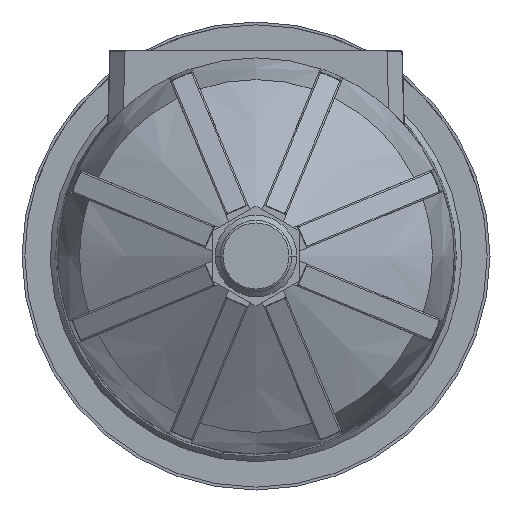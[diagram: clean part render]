
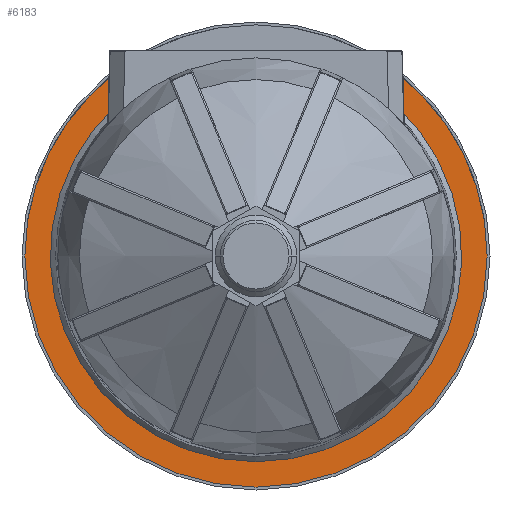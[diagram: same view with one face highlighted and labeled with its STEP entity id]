
A CAD part, front view. The second image highlights one B-rep face of the part: STEP entity #6183.
In plain terms, the highlighted planar face has unit normal (0, -1, 0).
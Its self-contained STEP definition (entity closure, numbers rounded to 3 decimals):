
#2401=CARTESIAN_POINT('',(0.,23.2,
0.));
#2402=DIRECTION('',(0.,1.,0.));
#2403=DIRECTION('',(0.,0.,-1.));
#2404=AXIS2_PLACEMENT_3D('',#2401,#2402,#2403);
#2406=CARTESIAN_POINT('',(0.,23.2,
0.));
#2407=DIRECTION('',(0.,1.,0.));
#2408=DIRECTION('',(0.547,0.,0.837));
#2409=AXIS2_PLACEMENT_3D('',#2406,#2407,#2408);
#2411=DIRECTION('',(0.052,0.,-0.999));
#2412=VECTOR('',#2411,6.02);
#2413=CARTESIAN_POINT('',(21.83,23.2,39.921));
#2414=LINE('',#2413,#2412);
#2415=CARTESIAN_POINT('',(0.,23.2,0.));
#2416=DIRECTION('',(0.,-1.,0.));
#2417=DIRECTION('',(1.,0.,0.));
#2418=AXIS2_PLACEMENT_3D('',#2415,#2416,#2417);
#2420=CARTESIAN_POINT('',(0.,23.2,0.));
#2421=DIRECTION('',(0.,-1.,0.));
#2422=DIRECTION('',(-1.,0.,0.));
#2423=AXIS2_PLACEMENT_3D('',#2420,#2421,#2422);
#2425=CARTESIAN_POINT('',(0.,23.2,0.));
#2426=DIRECTION('',(0.,-1.,0.));
#2427=DIRECTION('',(-0.48,0.,0.877));
#2428=AXIS2_PLACEMENT_3D('',#2425,#2426,#2427);
#2430=DIRECTION('',(0.052,0.,0.999));
#2431=VECTOR('',#2430,6.02);
#2432=CARTESIAN_POINT('',(-22.145,23.2,33.909));
#2433=LINE('',#2432,#2431);
#2907=CARTESIAN_POINT('',(45.5,23.2,0.));
#2909=VERTEX_POINT('',#2907);
#2911=CARTESIAN_POINT('',(21.83,23.2,39.921));
#2912=VERTEX_POINT('',#2911);
#2917=CARTESIAN_POINT('',(-21.83,23.2,39.921));
#2918=VERTEX_POINT('',#2917);
#2919=CARTESIAN_POINT('',(-45.5,23.2,0.));
#2920=VERTEX_POINT('',#2919);
#2923=CARTESIAN_POINT('',(0.,23.2,
-40.5));
#2924=CARTESIAN_POINT('',(-22.145,23.2,33.909));
#2925=VERTEX_POINT('',#2923);
#2926=VERTEX_POINT('',#2924);
#2927=CARTESIAN_POINT('',(22.145,23.2,33.909));
#2928=VERTEX_POINT('',#2927);
#6165=CARTESIAN_POINT('',(0.,23.2,-2.789));
#6166=DIRECTION('',(0.,1.,0.));
#6167=DIRECTION('',(-1.,0.,0.));
#6168=AXIS2_PLACEMENT_3D('',#6165,#6166,#6167);
#6169=PLANE('',#6168);
#6170=ORIENTED_EDGE('',*,*,#6153,.F.);
#6171=ORIENTED_EDGE('',*,*,#6151,.F.);
#6173=ORIENTED_EDGE('',*,*,#6172,.F.);
#6175=ORIENTED_EDGE('',*,*,#6174,.F.);
#6177=ORIENTED_EDGE('',*,*,#6176,.F.);
#6179=ORIENTED_EDGE('',*,*,#6178,.F.);
#6180=ORIENTED_EDGE('',*,*,#6135,.F.);
#6181=EDGE_LOOP('',(#6170,#6171,#6173,#6175,#6177,#6179,#6180));
#6182=FACE_OUTER_BOUND('',#6181,.F.);
#6183=ADVANCED_FACE('',(#6182),#6169,.F.);
#2405=CIRCLE('',#2404,40.5);
#2410=CIRCLE('',#2409,40.5);
#2419=CIRCLE('',#2418,45.5);
#2424=CIRCLE('',#2423,45.5);
#2429=CIRCLE('',#2428,45.5);
#6135=EDGE_CURVE('',#2926,#2918,#2433,.T.);
#6151=EDGE_CURVE('',#2928,#2925,#2410,.T.);
#6153=EDGE_CURVE('',#2925,#2926,#2405,.T.);
#6172=EDGE_CURVE('',#2912,#2928,#2414,.T.);
#6174=EDGE_CURVE('',#2909,#2912,#2419,.T.);
#6176=EDGE_CURVE('',#2920,#2909,#2424,.T.);
#6178=EDGE_CURVE('',#2918,#2920,#2429,.T.);
